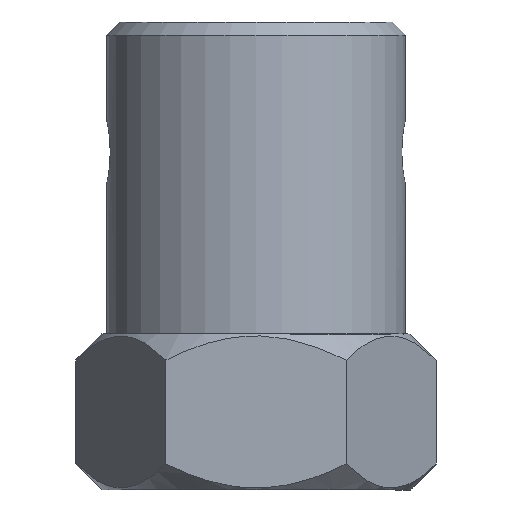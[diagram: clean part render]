
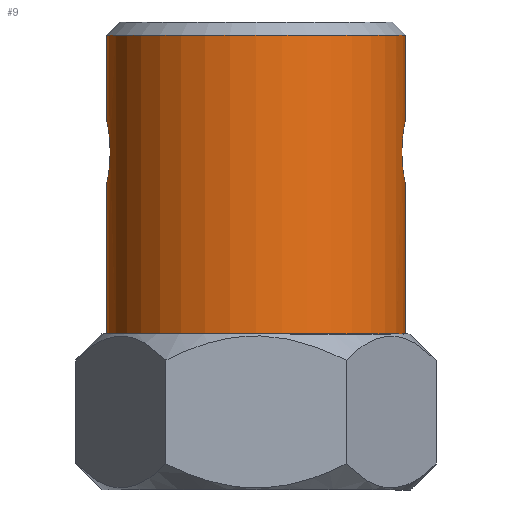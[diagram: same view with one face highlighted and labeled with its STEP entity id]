
A CAD part, front view. The second image highlights one B-rep face of the part: STEP entity #9.
In plain terms, the highlighted cylindrical face has radius 5.75 mm (diameter 11.5 mm), a partial arc.
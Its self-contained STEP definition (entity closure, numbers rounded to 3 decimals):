
#6 = VECTOR ( 'NONE', #21, 1000. ) ;
#8 = VERTEX_POINT ( 'NONE', #971 ) ;
#9 = ADVANCED_FACE ( 'NONE', ( #513 ), #838, .T. ) ;
#21 = DIRECTION ( 'NONE',  ( 0., 0., -1. ) ) ;
#61 = EDGE_CURVE ( 'NONE', #960, #8, #1099, .T. ) ;
#66 = CARTESIAN_POINT ( 'NONE',  ( 5.664, -1., 13.768 ) ) ;
#73 = CARTESIAN_POINT ( 'NONE',  ( -5.646, -1.092, 13.63 ) ) ;
#76 = CARTESIAN_POINT ( 'NONE',  ( 5.75, -0.166, 11.75 ) ) ;
#81 = CARTESIAN_POINT ( 'NONE',  ( -5.614, -1.242, 12.836 ) ) ;
#86 = VECTOR ( 'NONE', #1107, 1000. ) ;
#88 = VERTEX_POINT ( 'NONE', #107 ) ;
#95 = CARTESIAN_POINT ( 'NONE',  ( 5.75, 0., 6. ) ) ;
#102 = ORIENTED_EDGE ( 'NONE', *, *, #836, .T. ) ;
#107 = CARTESIAN_POINT ( 'NONE',  ( -5.75, 0., 14.25 ) ) ;
#155 = CARTESIAN_POINT ( 'NONE',  ( 5.75, 0., 11.75 ) ) ;
#160 = CARTESIAN_POINT ( 'NONE',  ( 5.664, -0.999, 12.231 ) ) ;
#170 = VERTEX_POINT ( 'NONE', #95 ) ;
#172 = CARTESIAN_POINT ( 'NONE',  ( -5.717, -0.631, 14.091 ) ) ;
#179 = AXIS2_PLACEMENT_3D ( 'NONE', #1136, #432, #1064 ) ;
#184 = VERTEX_POINT ( 'NONE', #280 ) ;
#193 = CARTESIAN_POINT ( 'NONE',  ( 5.75, 0., 17.5 ) ) ;
#201 = CARTESIAN_POINT ( 'NONE',  ( 5.75, 0., 14.25 ) ) ;
#205 = CARTESIAN_POINT ( 'NONE',  ( -5.75, 0., 18. ) ) ;
#206 = CARTESIAN_POINT ( 'NONE',  ( 5.75, 0., 11.75 ) ) ;
#257 = VERTEX_POINT ( 'NONE', #201 ) ;
#258 = ORIENTED_EDGE ( 'NONE', *, *, #61, .T. ) ;
#259 = CARTESIAN_POINT ( 'NONE',  ( -5.664, -1., 12.232 ) ) ;
#261 = CARTESIAN_POINT ( 'NONE',  ( 5.717, -0.631, 11.909 ) ) ;
#262 = CARTESIAN_POINT ( 'NONE',  ( -5.75, 0., 11.75 ) ) ;
#274 = CARTESIAN_POINT ( 'NONE',  ( -5.621, -1.21, 12.675 ) ) ;
#280 = CARTESIAN_POINT ( 'NONE',  ( -5.75, 0., 6. ) ) ;
#314 = ORIENTED_EDGE ( 'NONE', *, *, #744, .T. ) ;
#356 = CIRCLE ( 'NONE', #179, 5.75 ) ;
#363 = CARTESIAN_POINT ( 'NONE',  ( -5.7, -0.768, 12. ) ) ;
#367 = CARTESIAN_POINT ( 'NONE',  ( -5.646, -1.092, 12.37 ) ) ;
#368 = CARTESIAN_POINT ( 'NONE',  ( -5.664, -0.999, 13.769 ) ) ;
#373 = EDGE_LOOP ( 'NONE', ( #626, #258, #1088, #978, #868, #314, #588, #102 ) ) ;
#432 = DIRECTION ( 'NONE',  ( 0., 0., 1. ) ) ;
#435 = CARTESIAN_POINT ( 'NONE',  ( 5.743, -0.328, 11.783 ) ) ;
#440 = CARTESIAN_POINT ( 'NONE',  ( 5.7, -0.768, 14. ) ) ;
#462 = CARTESIAN_POINT ( 'NONE',  ( -5.75, 0., 11.75 ) ) ;
#509 = VECTOR ( 'NONE', #847, 1000. ) ;
#513 = FACE_OUTER_BOUND ( 'NONE', #373, .T. ) ;
#518 = EDGE_CURVE ( 'NONE', #88, #524, #720, .T. ) ;
#522 = LINE ( 'NONE', #205, #6 ) ;
#524 = VERTEX_POINT ( 'NONE', #462 ) ;
#531 = CARTESIAN_POINT ( 'NONE',  ( 5.62, -1.217, 12.671 ) ) ;
#536 = CARTESIAN_POINT ( 'NONE',  ( 5.75, -0.163, 14.25 ) ) ;
#539 = EDGE_CURVE ( 'NONE', #524, #184, #1025, .T. ) ;
#540 = DIRECTION ( 'NONE',  ( 0., 0., -1. ) ) ;
#546 = CARTESIAN_POINT ( 'NONE',  ( -5.626, -1.186, 12.597 ) ) ;
#554 = AXIS2_PLACEMENT_3D ( 'NONE', #979, #540, #987 ) ;
#557 = CARTESIAN_POINT ( 'NONE',  ( -5.743, -0.328, 14.217 ) ) ;
#565 = CARTESIAN_POINT ( 'NONE',  ( -5.75, 0., 18. ) ) ;
#569 = DIRECTION ( 'NONE',  ( 0., 0., -1. ) ) ;
#588 = ORIENTED_EDGE ( 'NONE', *, *, #938, .F. ) ;
#609 = CARTESIAN_POINT ( 'NONE',  ( 5.646, -1.092, 13.63 ) ) ;
#617 = DIRECTION ( 'NONE',  ( 0., 0., -1. ) ) ;
#619 = CARTESIAN_POINT ( 'NONE',  ( 5.743, -0.328, 14.217 ) ) ;
#621 = CARTESIAN_POINT ( 'NONE',  ( 5.621, -1.21, 13.325 ) ) ;
#626 = ORIENTED_EDGE ( 'NONE', *, *, #651, .F. ) ;
#639 = CARTESIAN_POINT ( 'NONE',  ( -5.743, -0.328, 11.783 ) ) ;
#640 = B_SPLINE_CURVE_WITH_KNOTS ( 'NONE', 3,
 ( #155, #76, #435, #261, #895, #160, #1177, #531, #716, #1169, #1077, #621, #1157, #609, #66, #440, #1073, #619, #536, #1067 ),
 .UNSPECIFIED., .F., .F.,
 ( 4, 2, 2, 2, 2, 2, 2, 2, 2, 4 ),
 ( 0., 0., 0.001, 0.001, 0.002, 0.002, 0.002, 0.003, 0.003, 0.004 ),
 .UNSPECIFIED. ) ;
#651 = EDGE_CURVE ( 'NONE', #960, #257, #1085, .T. ) ;
#668 = AXIS2_PLACEMENT_3D ( 'NONE', #1162, #617, #776 ) ;
#713 = CARTESIAN_POINT ( 'NONE',  ( -5.75, 0., 14.25 ) ) ;
#716 = CARTESIAN_POINT ( 'NONE',  ( 5.613, -1.25, 12.836 ) ) ;
#720 = B_SPLINE_CURVE_WITH_KNOTS ( 'NONE', 3,
 ( #713, #819, #557, #172, #911, #368, #73, #986, #800, #900, #81, #274, #546, #367, #259, #363, #1190, #639, #1092, #262 ),
 .UNSPECIFIED., .F., .F.,
 ( 4, 2, 2, 2, 2, 2, 2, 2, 2, 4 ),
 ( 0., 0., 0.001, 0.001, 0.002, 0.002, 0.002, 0.003, 0.003, 0.004 ),
 .UNSPECIFIED. ) ;
#744 = EDGE_CURVE ( 'NONE', #184, #170, #356, .T. ) ;
#756 = CARTESIAN_POINT ( 'NONE',  ( 5.75, 0., 18. ) ) ;
#776 = DIRECTION ( 'NONE',  ( -1., 0., 0. ) ) ;
#800 = CARTESIAN_POINT ( 'NONE',  ( -5.613, -1.25, 13.164 ) ) ;
#806 = LINE ( 'NONE', #1106, #1021 ) ;
#819 = CARTESIAN_POINT ( 'NONE',  ( -5.75, -0.166, 14.25 ) ) ;
#836 = EDGE_CURVE ( 'NONE', #1118, #257, #640, .T. ) ;
#838 = CYLINDRICAL_SURFACE ( 'NONE', #668, 5.75 ) ;
#847 = DIRECTION ( 'NONE',  ( 0., 0., -1. ) ) ;
#868 = ORIENTED_EDGE ( 'NONE', *, *, #539, .T. ) ;
#895 = CARTESIAN_POINT ( 'NONE',  ( 5.7, -0.769, 12.001 ) ) ;
#900 = CARTESIAN_POINT ( 'NONE',  ( -5.612, -1.25, 12.919 ) ) ;
#911 = CARTESIAN_POINT ( 'NONE',  ( -5.7, -0.769, 13.999 ) ) ;
#938 = EDGE_CURVE ( 'NONE', #1118, #170, #806, .T. ) ;
#960 = VERTEX_POINT ( 'NONE', #193 ) ;
#971 = CARTESIAN_POINT ( 'NONE',  ( -5.75, 0., 17.5 ) ) ;
#978 = ORIENTED_EDGE ( 'NONE', *, *, #518, .T. ) ;
#979 = CARTESIAN_POINT ( 'NONE',  ( 0., 0., 17.5 ) ) ;
#986 = CARTESIAN_POINT ( 'NONE',  ( -5.62, -1.217, 13.329 ) ) ;
#987 = DIRECTION ( 'NONE',  ( 1., 0., 0. ) ) ;
#1021 = VECTOR ( 'NONE', #569, 1000. ) ;
#1025 = LINE ( 'NONE', #565, #86 ) ;
#1064 = DIRECTION ( 'NONE',  ( 1., 0., 0. ) ) ;
#1067 = CARTESIAN_POINT ( 'NONE',  ( 5.75, 0., 14.25 ) ) ;
#1073 = CARTESIAN_POINT ( 'NONE',  ( 5.717, -0.63, 14.092 ) ) ;
#1077 = CARTESIAN_POINT ( 'NONE',  ( 5.614, -1.242, 13.164 ) ) ;
#1085 = LINE ( 'NONE', #756, #509 ) ;
#1088 = ORIENTED_EDGE ( 'NONE', *, *, #1120, .T. ) ;
#1092 = CARTESIAN_POINT ( 'NONE',  ( -5.75, -0.163, 11.75 ) ) ;
#1099 = CIRCLE ( 'NONE', #554, 5.75 ) ;
#1106 = CARTESIAN_POINT ( 'NONE',  ( 5.75, 0., 18. ) ) ;
#1107 = DIRECTION ( 'NONE',  ( 0., 0., -1. ) ) ;
#1118 = VERTEX_POINT ( 'NONE', #206 ) ;
#1120 = EDGE_CURVE ( 'NONE', #8, #88, #522, .T. ) ;
#1136 = CARTESIAN_POINT ( 'NONE',  ( 0., 0., 6. ) ) ;
#1157 = CARTESIAN_POINT ( 'NONE',  ( 5.626, -1.186, 13.403 ) ) ;
#1162 = CARTESIAN_POINT ( 'NONE',  ( 0., 0., 18. ) ) ;
#1169 = CARTESIAN_POINT ( 'NONE',  ( 5.612, -1.25, 13.081 ) ) ;
#1177 = CARTESIAN_POINT ( 'NONE',  ( 5.646, -1.092, 12.37 ) ) ;
#1190 = CARTESIAN_POINT ( 'NONE',  ( -5.717, -0.63, 11.908 ) ) ;
